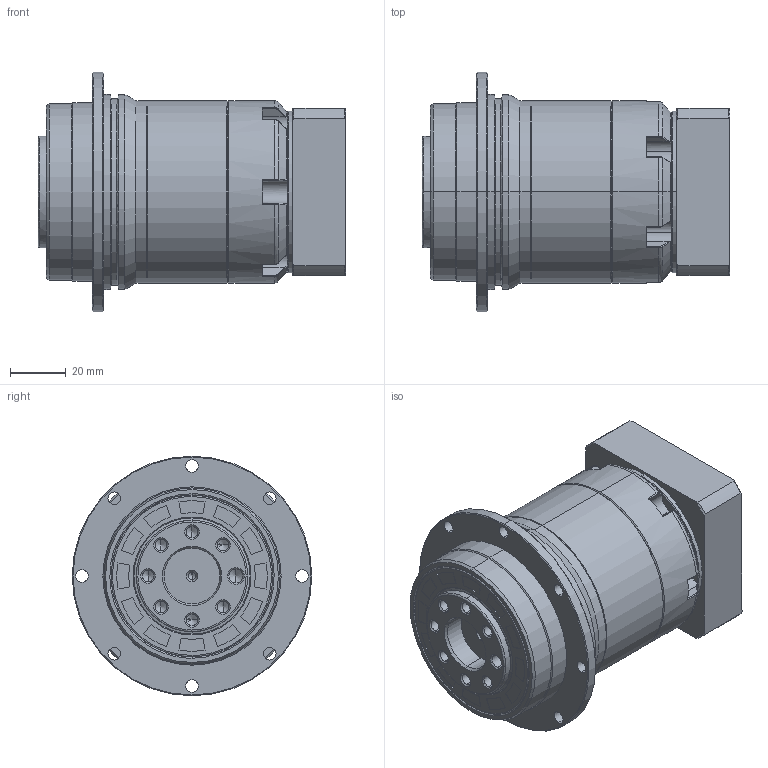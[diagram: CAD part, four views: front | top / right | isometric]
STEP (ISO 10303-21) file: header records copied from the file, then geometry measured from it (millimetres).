
FILE_DESCRIPTION (( 'STEP AP214' ), '1' );
FILE_NAME ('VRT064-L2-P2 8-30-46-M4.STEP', '2021-04-26T06:22:42', ( '微软用户' ), ( '微软中国' ), 'SwSTEP 2.0', 'SolidWorks 2014', '' );
FILE_SCHEMA (( 'AUTOMOTIVE_DESIGN' ));
Length unit declared in the file: millimetre
Products named in the file (17): 蚐猾40585; 3-输入端壳体VRT0064D; VRT064-L2-P2 8-30-46-M4; 坶踡遠18-37-12; VRT064D齿圈; VRT0064D怀堤俴陎殤; VRT0064D一级内齿圈; 输入法兰VRT060D-30X21XM4(46); 输入太阳齿轮060D-14
Assembly tree (8 placements, depth 2):
  蚐猾40585
  3-输入端壳体VRT0064D
  VRT064-L2-P2 8-30-46-M4
    VRT064D齿圈
    VRT0064D怀堤俴陎殤
    蚐猾40585
    VRT0064D一级内齿圈
    3-输入端壳体VRT0064D
    输入法兰VRT060D-30X21XM4(46)
    输入太阳齿轮060D-14
    坶踡遠18-37-12
  坶踡遠18-37-12
  VRT0064D一级内齿圈
Bounding box: 110.5 x 86 x 86 mm (x, y, z)
Volume: 280780.1 mm3; surface area: 86739.1 mm2
Topology: 8 solids, 8 shells, 612 faces, 1494 edges, 932 vertices
Faces by surface type: cylinder 265, plane 132, cone 130, bspline 81, torus 4
Entity records: 27918 total; most frequent: CARTESIAN_POINT 6642, DIRECTION 3095, ORIENTED_EDGE 2936, EDGE_CURVE 1468, AXIS2_PLACEMENT_3D 1272, VERTEX_POINT 932, CIRCLE 729, EDGE_LOOP 722
